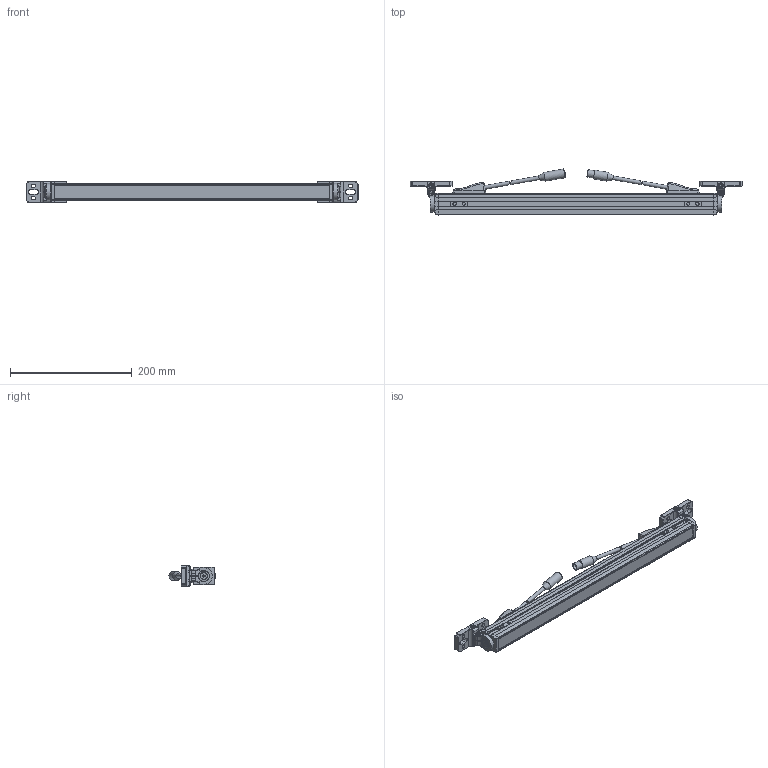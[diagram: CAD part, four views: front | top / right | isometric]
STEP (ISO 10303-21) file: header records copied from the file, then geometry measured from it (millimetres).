
FILE_DESCRIPTION((''),'2;1');
FILE_NAME('M:\INVENTORjob\Konstruktion\LV6036\Freigabe\Bauraummodelle\Geräte\stp\host - guest\MLC_R_450 MG.stp','2014-04-11T13:03:02',('seisen'),(''),'Autodesk Inventor 2009','Autodesk Inventor 2009','');
FILE_SCHEMA(('AUTOMOTIVE_DESIGN { 1 0 10303 214 1 1 1 1 }'));
Length unit declared in the file: millimetre
Products named in the file (19): MLC_R_450 MG; MLC_R_450_G_; Endkappe_T; Profil MLC 450; Endkappe_R; BT-R_Zubehör; Wandteil_Zubehör; Klemmring_BT-R_Zubehör; DIN 912 - ersetzt durch DIN EN ISO 4762 M5 x 12; DIN 934 - ersetzt durch DIN EN 24032/28673/28674 M5; DIN 6912 M5 x 30; Zylinder_Zubehör; DIN 7991 - ersetzt durch DIN EN ISO 10642 M6  x  10; Nutenstein M6; Anschluss input komplett; Tuellengehaeuse; CB-M12-500E-8FTP input; Anschluss output komplett; CB-M12-500E-8FTP output
Assembly tree (25 placements, depth 3):
  MLC_R_450 MG
    MLC_R_450_G_
      Endkappe_T
      Profil MLC 450
      Endkappe_R
    BT-R_Zubehör  x2
      Wandteil_Zubehör
      Klemmring_BT-R_Zubehör
      DIN 912 - ersetzt durch DIN EN ISO 4762 M5 x 12
      DIN 934 - ersetzt durch DIN EN 24032/28673/28674 M5
      DIN 6912 M5 x 30
    Zylinder_Zubehör  x2
    DIN 7991 - ersetzt durch DIN EN ISO 10642 M6  x  10  x2
    Nutenstein M6  x2
    Anschluss input komplett
      Tuellengehaeuse
      CB-M12-500E-8FTP input
    Anschluss output komplett
      Tuellengehaeuse
      CB-M12-500E-8FTP output
Bounding box: 544.91 x 75.58 x 34 mm (x, y, z)
Volume: 508652.8 mm3; surface area: 127775.6 mm2
Topology: 29 solids, 29 shells, 848 faces, 2157 edges, 1357 vertices
Faces by surface type: plane 366, cylinder 261, bspline 96, cone 52, torus 48, sphere 25
Full cylindrical faces by diameter (mm): 2.5 x2, 4.65 x2, 5 x12, 5.18 x2, 5.55 x2, 6 x6, 6.2 x10, 8 x1, 8.5 x5, 8.6 x2, 11 x1, 11.34 x2, 12 x3, 14.5 x2
Entity records: 12453 total; most frequent: CARTESIAN_POINT 3687, DIRECTION 1720, ORIENTED_EDGE 1666, EDGE_CURVE 833, AXIS2_PLACEMENT_3D 652, VERTEX_POINT 564, EDGE_LOOP 449, VECTOR 416
